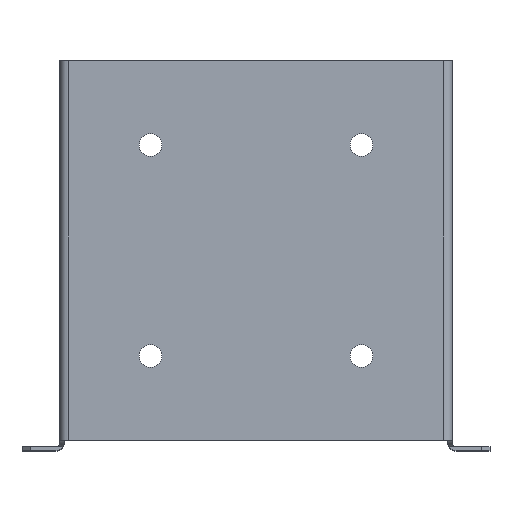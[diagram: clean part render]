
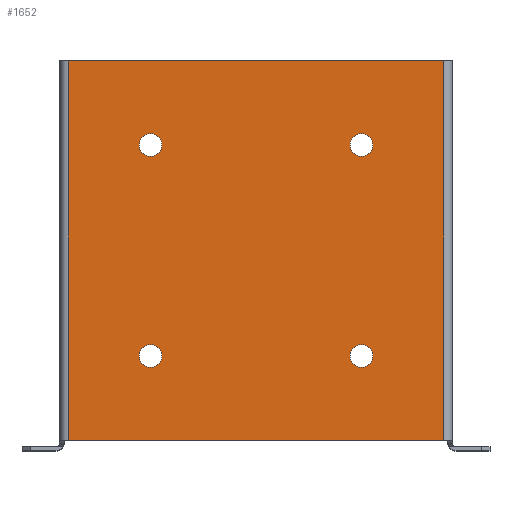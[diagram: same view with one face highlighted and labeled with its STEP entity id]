
A CAD part, top view. The second image highlights one B-rep face of the part: STEP entity #1652.
In plain terms, the highlighted planar face has unit normal (0, 0, 1).
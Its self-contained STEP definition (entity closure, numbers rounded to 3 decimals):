
#10 = AXIS2_PLACEMENT_3D ( 'NONE', #1157, #732, #1767 ) ;
#25 = DIRECTION ( 'NONE',  ( 1., 0., 0. ) ) ;
#42 = CIRCLE ( 'NONE', #799, 2.7 ) ;
#62 = ORIENTED_EDGE ( 'NONE', *, *, #1008, .F. ) ;
#67 = CARTESIAN_POINT ( 'NONE',  ( 74.2, 40., 100. ) ) ;
#76 = VERTEX_POINT ( 'NONE', #347 ) ;
#93 = AXIS2_PLACEMENT_3D ( 'NONE', #278, #1910, #433 ) ;
#114 = FACE_BOUND ( 'NONE', #672, .T. ) ;
#122 = AXIS2_PLACEMENT_3D ( 'NONE', #1665, #160, #1050 ) ;
#124 = FACE_BOUND ( 'NONE', #1345, .T. ) ;
#149 = ORIENTED_EDGE ( 'NONE', *, *, #1511, .T. ) ;
#160 = DIRECTION ( 'NONE',  ( 0., 0., 1. ) ) ;
#183 = DIRECTION ( 'NONE',  ( 0., 0., 1. ) ) ;
#226 = EDGE_LOOP ( 'NONE', ( #149, #1790, #1182, #1298 ) ) ;
#234 = VERTEX_POINT ( 'NONE', #707 ) ;
#252 = ORIENTED_EDGE ( 'NONE', *, *, #879, .F. ) ;
#278 = CARTESIAN_POINT ( 'NONE',  ( 21.5, 90., 100. ) ) ;
#301 = ORIENTED_EDGE ( 'NONE', *, *, #659, .F. ) ;
#302 = CARTESIAN_POINT ( 'NONE',  ( 68.8, 90., 100. ) ) ;
#305 = DIRECTION ( 'NONE',  ( 1., 0., 0. ) ) ;
#312 = VERTEX_POINT ( 'NONE', #742 ) ;
#313 = DIRECTION ( 'NONE',  ( 0., 0., 1. ) ) ;
#320 = VERTEX_POINT ( 'NONE', #1927 ) ;
#347 = CARTESIAN_POINT ( 'NONE',  ( 91., 20., 100. ) ) ;
#357 = EDGE_CURVE ( 'NONE', #1092, #320, #1770, .T. ) ;
#386 = EDGE_CURVE ( 'NONE', #1546, #1297, #671, .T. ) ;
#427 = DIRECTION ( 'NONE',  ( 0., 0., -1. ) ) ;
#429 = VERTEX_POINT ( 'NONE', #1376 ) ;
#433 = DIRECTION ( 'NONE',  ( 1., 0., 0. ) ) ;
#510 = CARTESIAN_POINT ( 'NONE',  ( 2., 110., 100. ) ) ;
#579 = PLANE ( 'NONE',  #1070 ) ;
#594 = CIRCLE ( 'NONE', #908, 2.7 ) ;
#627 = DIRECTION ( 'NONE',  ( 0., 0., 1. ) ) ;
#643 = ORIENTED_EDGE ( 'NONE', *, *, #939, .F. ) ;
#646 = ORIENTED_EDGE ( 'NONE', *, *, #357, .F. ) ;
#657 = DIRECTION ( 'NONE',  ( 0., 0., 1. ) ) ;
#659 = EDGE_CURVE ( 'NONE', #234, #312, #957, .T. ) ;
#666 = LINE ( 'NONE', #1842, #1286 ) ;
#671 = CIRCLE ( 'NONE', #922, 2.7 ) ;
#672 = EDGE_LOOP ( 'NONE', ( #62, #765 ) ) ;
#681 = DIRECTION ( 'NONE',  ( 1., 0., 0. ) ) ;
#707 = CARTESIAN_POINT ( 'NONE',  ( 18.8, 40., 100. ) ) ;
#732 = DIRECTION ( 'NONE',  ( 0., 0., 1. ) ) ;
#742 = CARTESIAN_POINT ( 'NONE',  ( 24.2, 40., 100. ) ) ;
#765 = ORIENTED_EDGE ( 'NONE', *, *, #1043, .F. ) ;
#799 = AXIS2_PLACEMENT_3D ( 'NONE', #830, #1294, #681 ) ;
#805 = DIRECTION ( 'NONE',  ( 0., 1., 0. ) ) ;
#817 = CARTESIAN_POINT ( 'NONE',  ( 0., 110., 100. ) ) ;
#830 = CARTESIAN_POINT ( 'NONE',  ( 21.5, 40., 100. ) ) ;
#846 = CARTESIAN_POINT ( 'NONE',  ( 24.2, 90., 100. ) ) ;
#879 = EDGE_CURVE ( 'NONE', #1297, #1546, #1534, .T. ) ;
#908 = AXIS2_PLACEMENT_3D ( 'NONE', #1703, #657, #1117 ) ;
#922 = AXIS2_PLACEMENT_3D ( 'NONE', #1077, #627, #25 ) ;
#939 = EDGE_CURVE ( 'NONE', #320, #1092, #1060, .T. ) ;
#957 = CIRCLE ( 'NONE', #10, 2.7 ) ;
#989 = EDGE_CURVE ( 'NONE', #1355, #1120, #1805, .T. ) ;
#1008 = EDGE_CURVE ( 'NONE', #1235, #1726, #1186, .T. ) ;
#1043 = EDGE_CURVE ( 'NONE', #1726, #1235, #594, .T. ) ;
#1050 = DIRECTION ( 'NONE',  ( 1., 0., 0. ) ) ;
#1060 = CIRCLE ( 'NONE', #122, 2.7 ) ;
#1070 = AXIS2_PLACEMENT_3D ( 'NONE', #1772, #427, #1625 ) ;
#1077 = CARTESIAN_POINT ( 'NONE',  ( 21.5, 90., 100. ) ) ;
#1080 = DIRECTION ( 'NONE',  ( 0., -1., 0. ) ) ;
#1092 = VERTEX_POINT ( 'NONE', #67 ) ;
#1099 = EDGE_CURVE ( 'NONE', #76, #429, #666, .T. ) ;
#1117 = DIRECTION ( 'NONE',  ( 1., 0., 0. ) ) ;
#1120 = VERTEX_POINT ( 'NONE', #1143 ) ;
#1143 = CARTESIAN_POINT ( 'NONE',  ( 2., 20., 100. ) ) ;
#1157 = CARTESIAN_POINT ( 'NONE',  ( 21.5, 40., 100. ) ) ;
#1182 = ORIENTED_EDGE ( 'NONE', *, *, #1319, .T. ) ;
#1186 = CIRCLE ( 'NONE', #1448, 2.7 ) ;
#1208 = ORIENTED_EDGE ( 'NONE', *, *, #1372, .F. ) ;
#1235 = VERTEX_POINT ( 'NONE', #1666 ) ;
#1286 = VECTOR ( 'NONE', #805, 1000. ) ;
#1294 = DIRECTION ( 'NONE',  ( 0., 0., 1. ) ) ;
#1297 = VERTEX_POINT ( 'NONE', #1722 ) ;
#1298 = ORIENTED_EDGE ( 'NONE', *, *, #989, .T. ) ;
#1302 = LINE ( 'NONE', #817, #1627 ) ;
#1319 = EDGE_CURVE ( 'NONE', #429, #1355, #1302, .T. ) ;
#1325 = VECTOR ( 'NONE', #1080, 1000. ) ;
#1326 = CARTESIAN_POINT ( 'NONE',  ( 71.5, 40., 100. ) ) ;
#1336 = AXIS2_PLACEMENT_3D ( 'NONE', #1326, #313, #1824 ) ;
#1345 = EDGE_LOOP ( 'NONE', ( #1628, #252 ) ) ;
#1355 = VERTEX_POINT ( 'NONE', #510 ) ;
#1372 = EDGE_CURVE ( 'NONE', #312, #234, #42, .T. ) ;
#1376 = CARTESIAN_POINT ( 'NONE',  ( 91., 110., 100. ) ) ;
#1402 = DIRECTION ( 'NONE',  ( 1., 0., 0. ) ) ;
#1432 = DIRECTION ( 'NONE',  ( -1., 0., 0. ) ) ;
#1442 = FACE_OUTER_BOUND ( 'NONE', #226, .T. ) ;
#1448 = AXIS2_PLACEMENT_3D ( 'NONE', #1531, #183, #305 ) ;
#1511 = EDGE_CURVE ( 'NONE', #1120, #76, #1723, .T. ) ;
#1531 = CARTESIAN_POINT ( 'NONE',  ( 71.5, 90., 100. ) ) ;
#1534 = CIRCLE ( 'NONE', #93, 2.7 ) ;
#1546 = VERTEX_POINT ( 'NONE', #846 ) ;
#1625 = DIRECTION ( 'NONE',  ( -1., 0., 0. ) ) ;
#1627 = VECTOR ( 'NONE', #1432, 1000. ) ;
#1628 = ORIENTED_EDGE ( 'NONE', *, *, #386, .F. ) ;
#1652 = ADVANCED_FACE ( 'NONE', ( #124, #114, #1907, #1915, #1442 ), #579, .F. ) ;
#1663 = EDGE_LOOP ( 'NONE', ( #646, #643 ) ) ;
#1665 = CARTESIAN_POINT ( 'NONE',  ( 71.5, 40., 100. ) ) ;
#1666 = CARTESIAN_POINT ( 'NONE',  ( 74.2, 90., 100. ) ) ;
#1674 = EDGE_LOOP ( 'NONE', ( #1208, #301 ) ) ;
#1703 = CARTESIAN_POINT ( 'NONE',  ( 71.5, 90., 100. ) ) ;
#1722 = CARTESIAN_POINT ( 'NONE',  ( 18.8, 90., 100. ) ) ;
#1723 = LINE ( 'NONE', #1759, #1859 ) ;
#1726 = VERTEX_POINT ( 'NONE', #302 ) ;
#1759 = CARTESIAN_POINT ( 'NONE',  ( 0., 20., 100. ) ) ;
#1767 = DIRECTION ( 'NONE',  ( 1., 0., 0. ) ) ;
#1770 = CIRCLE ( 'NONE', #1336, 2.7 ) ;
#1772 = CARTESIAN_POINT ( 'NONE',  ( 0., 0., 100. ) ) ;
#1790 = ORIENTED_EDGE ( 'NONE', *, *, #1099, .T. ) ;
#1805 = LINE ( 'NONE', #1825, #1325 ) ;
#1824 = DIRECTION ( 'NONE',  ( 1., 0., 0. ) ) ;
#1825 = CARTESIAN_POINT ( 'NONE',  ( 2., 0., 100. ) ) ;
#1842 = CARTESIAN_POINT ( 'NONE',  ( 91., 0., 100. ) ) ;
#1859 = VECTOR ( 'NONE', #1402, 1000. ) ;
#1907 = FACE_BOUND ( 'NONE', #1663, .T. ) ;
#1910 = DIRECTION ( 'NONE',  ( 0., 0., 1. ) ) ;
#1915 = FACE_BOUND ( 'NONE', #1674, .T. ) ;
#1927 = CARTESIAN_POINT ( 'NONE',  ( 68.8, 40., 100. ) ) ;
